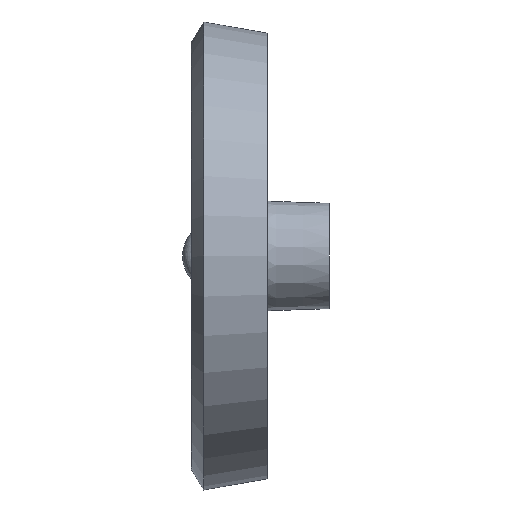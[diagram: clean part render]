
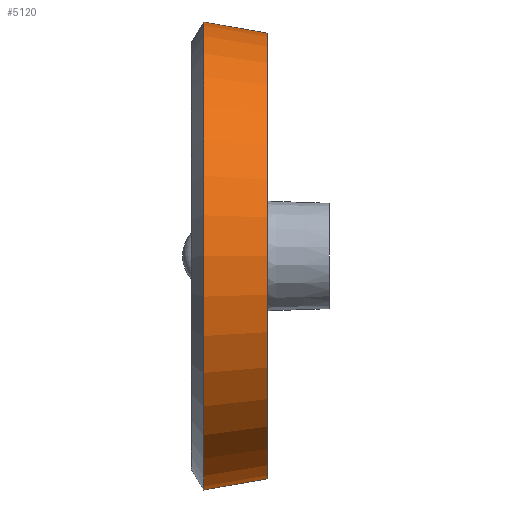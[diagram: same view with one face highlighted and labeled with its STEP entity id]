
A CAD part, front view. The second image highlights one B-rep face of the part: STEP entity #5120.
In plain terms, the highlighted conical face has half-angle 10 degrees and reference radius 76.157 mm.
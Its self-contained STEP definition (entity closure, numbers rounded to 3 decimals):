
#254 = FACE_OUTER_BOUND ( 'NONE', #9668, .T. ) ;
#1004 = EDGE_CURVE ( 'NONE', #2096, #2096, #9381, .T. ) ;
#1159 = DIRECTION ( 'NONE',  ( 0., 0., 1. ) ) ;
#1568 = DIRECTION ( 'NONE',  ( -1., 0., 0. ) ) ;
#2096 = VERTEX_POINT ( 'NONE', #6626 ) ;
#2430 = VERTEX_POINT ( 'NONE', #6035 ) ;
#3253 = CIRCLE ( 'NONE', #5647, 80. ) ;
#3291 = FACE_BOUND ( 'NONE', #4416, .T. ) ;
#3723 = CONICAL_SURFACE ( 'NONE', #8340, 76.157, 0.175 ) ;
#4092 = DIRECTION ( 'NONE',  ( 0., 0., 1. ) ) ;
#4416 = EDGE_LOOP ( 'NONE', ( #6965 ) ) ;
#5070 = AXIS2_PLACEMENT_3D ( 'NONE', #7601, #9735, #8297 ) ;
#5120 = ADVANCED_FACE ( 'NONE', ( #254, #3291 ), #3723, .T. ) ;
#5647 = AXIS2_PLACEMENT_3D ( 'NONE', #8399, #1568, #4092 ) ;
#6035 = CARTESIAN_POINT ( 'NONE',  ( 1.706, 0., 80. ) ) ;
#6626 = CARTESIAN_POINT ( 'NONE',  ( 23.5, 0., 76.157 ) ) ;
#6965 = ORIENTED_EDGE ( 'NONE', *, *, #1004, .T. ) ;
#7126 = ORIENTED_EDGE ( 'NONE', *, *, #7306, .F. ) ;
#7224 = CARTESIAN_POINT ( 'NONE',  ( 23.5, 0., 0. ) ) ;
#7306 = EDGE_CURVE ( 'NONE', #2430, #2430, #3253, .T. ) ;
#7601 = CARTESIAN_POINT ( 'NONE',  ( 23.5, 0., 0. ) ) ;
#8297 = DIRECTION ( 'NONE',  ( 0., 0., 1. ) ) ;
#8340 = AXIS2_PLACEMENT_3D ( 'NONE', #7224, #9380, #1159 ) ;
#8399 = CARTESIAN_POINT ( 'NONE',  ( 1.706, 0., 0. ) ) ;
#9380 = DIRECTION ( 'NONE',  ( -1., 0., 0. ) ) ;
#9381 = CIRCLE ( 'NONE', #5070, 76.157 ) ;
#9668 = EDGE_LOOP ( 'NONE', ( #7126 ) ) ;
#9735 = DIRECTION ( 'NONE',  ( -1., 0., 0. ) ) ;
